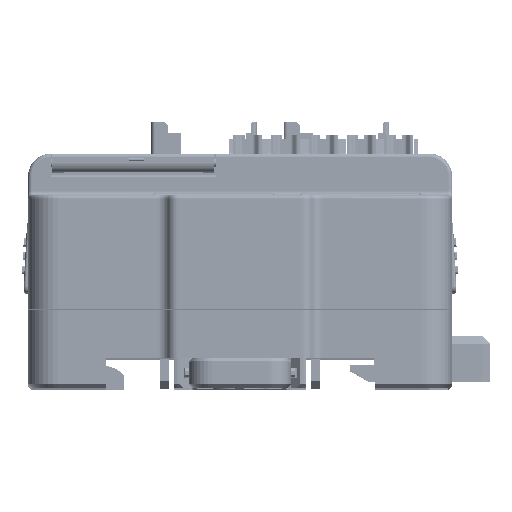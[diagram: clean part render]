
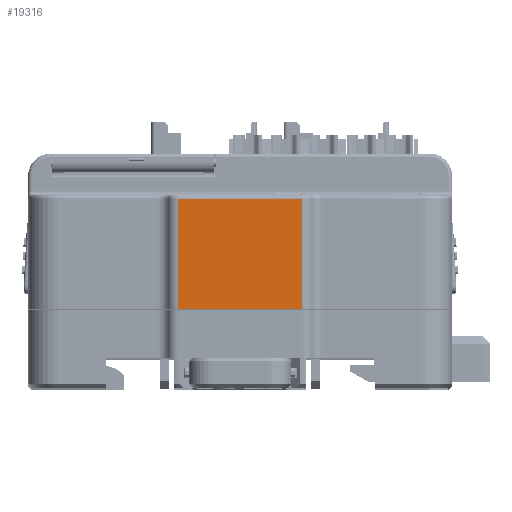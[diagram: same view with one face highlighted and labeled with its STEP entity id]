
A CAD part, top view. The second image highlights one B-rep face of the part: STEP entity #19316.
In plain terms, the highlighted planar face has unit normal (0, 0, 1).
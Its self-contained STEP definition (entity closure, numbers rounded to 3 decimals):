
#2552=B_SPLINE_CURVE_WITH_KNOTS('',3,(#427227,#427228,#427229,#427230),
 .UNSPECIFIED.,.F.,.F.,(4,4),(0.,1.),.UNSPECIFIED.);
#2553=B_SPLINE_CURVE_WITH_KNOTS('',1,(#427232,#427233,#427234,#427235,#427236,
#427237),.UNSPECIFIED.,.F.,.F.,(2,1,1,1,1,2),(0.,0.115,0.204,
0.796,0.885,1.),.UNSPECIFIED.);
#19316=ADVANCED_FACE('',(#46974),#33533,.T.);
#33533=PLANE('',#296750);
#46974=FACE_OUTER_BOUND('',#62296,.T.);
#62296=EDGE_LOOP('',(#103047,#103048,#103049,#103050));
#103047=ORIENTED_EDGE('',*,*,#196011,.T.);
#103048=ORIENTED_EDGE('',*,*,#196152,.F.);
#103049=ORIENTED_EDGE('',*,*,#195628,.F.);
#103050=ORIENTED_EDGE('',*,*,#196153,.T.);
#163959=VERTEX_POINT('',#425567);
#163960=VERTEX_POINT('',#425569);
#164269=VERTEX_POINT('',#426827);
#164272=VERTEX_POINT('',#426838);
#195628=EDGE_CURVE('',#163959,#163960,#232870,.T.);
#196011=EDGE_CURVE('',#164269,#164272,#233147,.T.);
#196152=EDGE_CURVE('',#163960,#164272,#2552,.T.);
#196153=EDGE_CURVE('',#163959,#164269,#2553,.T.);
#232870=LINE('',#425568,#266326);
#233147=LINE('',#426839,#266603);
#266326=VECTOR('',#336436,1.);
#266603=VECTOR('',#336925,1.);
#296750=AXIS2_PLACEMENT_3D('',#427238,#337219,#337220);
#336436=DIRECTION('',(-1.,0.,0.));
#336925=DIRECTION('',(-1.,0.,0.));
#337219=DIRECTION('',(0.,0.,1.));
#337220=DIRECTION('',(-1.,0.,0.));
#425567=CARTESIAN_POINT('',(-196.391,158.747,449.638));
#425568=CARTESIAN_POINT('',(-176.588,158.747,449.638));
#425569=CARTESIAN_POINT('',(-212.785,158.747,449.638));
#426827=CARTESIAN_POINT('',(-196.391,173.342,449.638));
#426838=CARTESIAN_POINT('',(-212.785,173.342,449.638));
#426839=CARTESIAN_POINT('',(-196.391,173.342,449.638));
#427227=CARTESIAN_POINT('',(-212.785,158.747,449.638));
#427228=CARTESIAN_POINT('',(-212.785,163.612,449.638));
#427229=CARTESIAN_POINT('',(-212.785,168.477,449.638));
#427230=CARTESIAN_POINT('',(-212.785,173.342,449.638));
#427232=CARTESIAN_POINT('',(-196.391,151.232,449.638));
#427233=CARTESIAN_POINT('',(-196.391,154.293,449.638));
#427234=CARTESIAN_POINT('',(-196.391,156.647,449.638));
#427235=CARTESIAN_POINT('',(-196.391,172.342,449.638));
#427236=CARTESIAN_POINT('',(-196.391,174.696,449.638));
#427237=CARTESIAN_POINT('',(-196.391,177.756,449.638));
#427238=CARTESIAN_POINT('',(-196.391,172.342,449.638));
